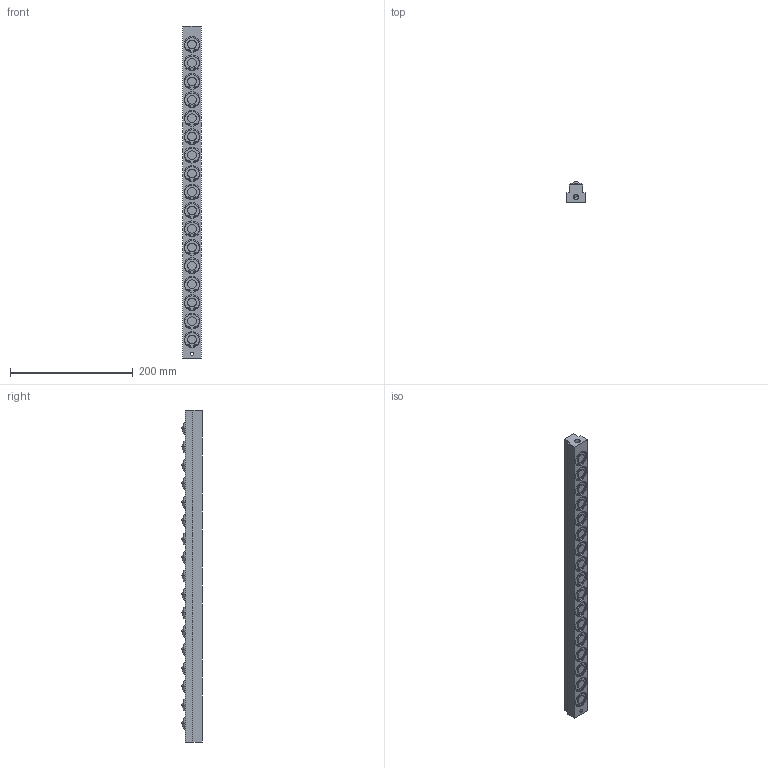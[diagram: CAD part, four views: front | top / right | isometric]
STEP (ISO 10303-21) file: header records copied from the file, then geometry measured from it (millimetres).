
FILE_DESCRIPTION (( 'STEP AP203' ), '1' );
FILE_NAME ('PVL20T-17.STEP', '2015-12-24T07:31:09', ( '' ), ( '' ), 'SwSTEP 2.0', 'SolidWorks 2013', '' );
FILE_SCHEMA (( 'CONFIG_CONTROL_DESIGN' ));
Length unit declared in the file: millimetre
Products named in the file (1): PVL20T-17
Bounding box: 30 x 34 x 540 mm (x, y, z)
Volume: 397355.4 mm3; surface area: 72009.1 mm2
Topology: 1 solids, 1 shells, 498 faces, 1191 edges, 798 vertices
Faces by surface type: cylinder 278, plane 148, torus 34, sphere 34, cone 4
Entity records: 14966 total; most frequent: DIRECTION 2951, CARTESIAN_POINT 2486, ORIENTED_EDGE 2378, AXIS2_PLACEMENT_3D 1263, EDGE_CURVE 1189, VERTEX_POINT 798, CIRCLE 764, EDGE_LOOP 605
